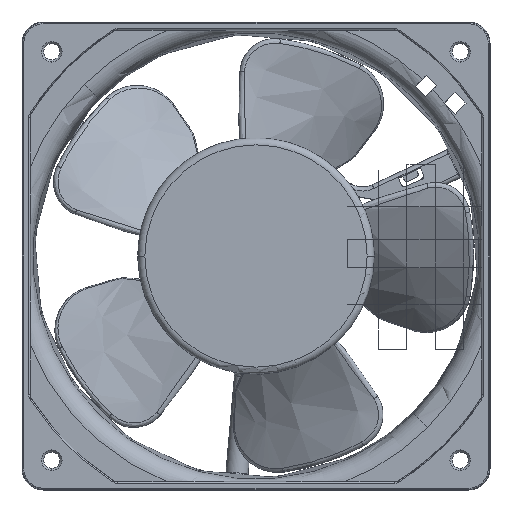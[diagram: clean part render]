
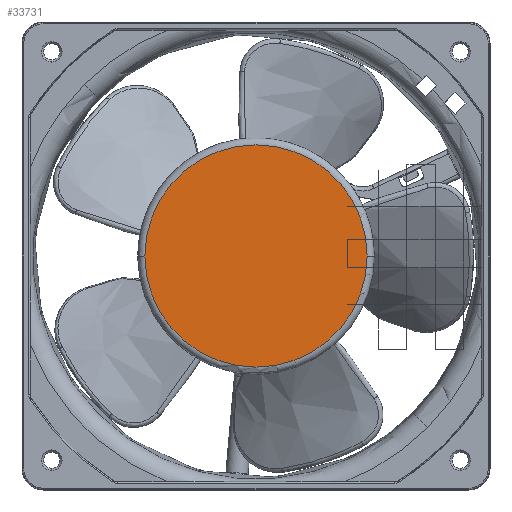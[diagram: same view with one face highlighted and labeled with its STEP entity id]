
A CAD part, front view. The second image highlights one B-rep face of the part: STEP entity #33731.
In plain terms, the highlighted planar face has unit normal (0, 1, 0).
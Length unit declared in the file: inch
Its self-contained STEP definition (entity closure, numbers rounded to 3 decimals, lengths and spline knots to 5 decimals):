
#29268=CARTESIAN_POINT('',(4.61189,0.07481,
-4.61189));
#29269=DIRECTION('',(0.,-1.,0.));
#29270=DIRECTION('',(-1.,0.,0.));
#29271=AXIS2_PLACEMENT_3D('',#29268,#29269,#29270);
#29273=CARTESIAN_POINT('',(4.61189,0.07481,
-4.61189));
#29274=DIRECTION('',(0.,-1.,0.));
#29275=DIRECTION('',(1.,0.,0.));
#29276=AXIS2_PLACEMENT_3D('',#29273,#29274,#29275);
#29595=CARTESIAN_POINT('',(5.73689,0.07481,
-4.61189));
#29596=VERTEX_POINT('',#29595);
#29597=CARTESIAN_POINT('',(3.48689,0.07481,
-4.61189));
#29598=VERTEX_POINT('',#29597);
#33722=CARTESIAN_POINT('',(4.61189,0.07481,
-4.61189));
#33723=DIRECTION('',(0.,1.,0.));
#33724=DIRECTION('',(1.,0.,0.));
#33725=AXIS2_PLACEMENT_3D('',#33722,#33723,#33724);
#33726=PLANE('',#33725);
#33727=ORIENTED_EDGE('',*,*,#32843,.T.);
#33728=ORIENTED_EDGE('',*,*,#30509,.T.);
#33729=EDGE_LOOP('',(#33727,#33728));
#33730=FACE_OUTER_BOUND('',#33729,.F.);
#33731=ADVANCED_FACE('',(#33730),#33726,.T.);
#29272=CIRCLE('',#29271,1.125);
#29277=CIRCLE('',#29276,1.125);
#30509=EDGE_CURVE('',#29596,#29598,#29277,.T.);
#32843=EDGE_CURVE('',#29598,#29596,#29272,.T.);
